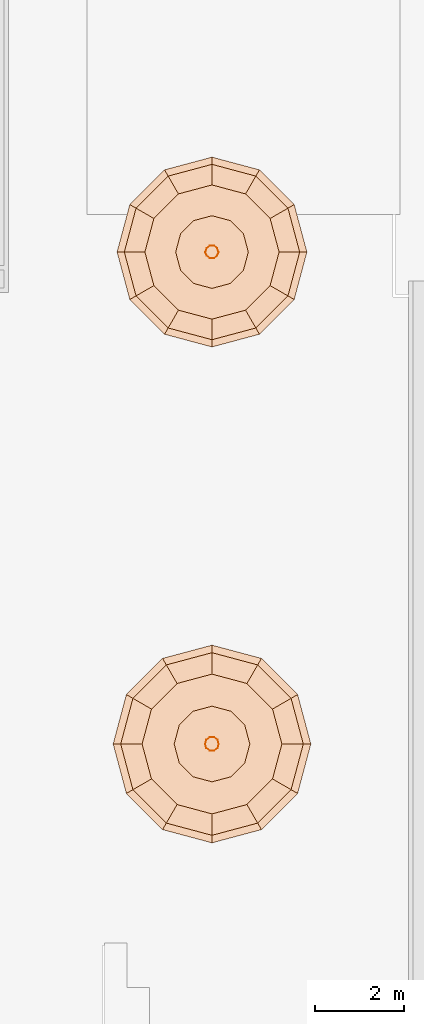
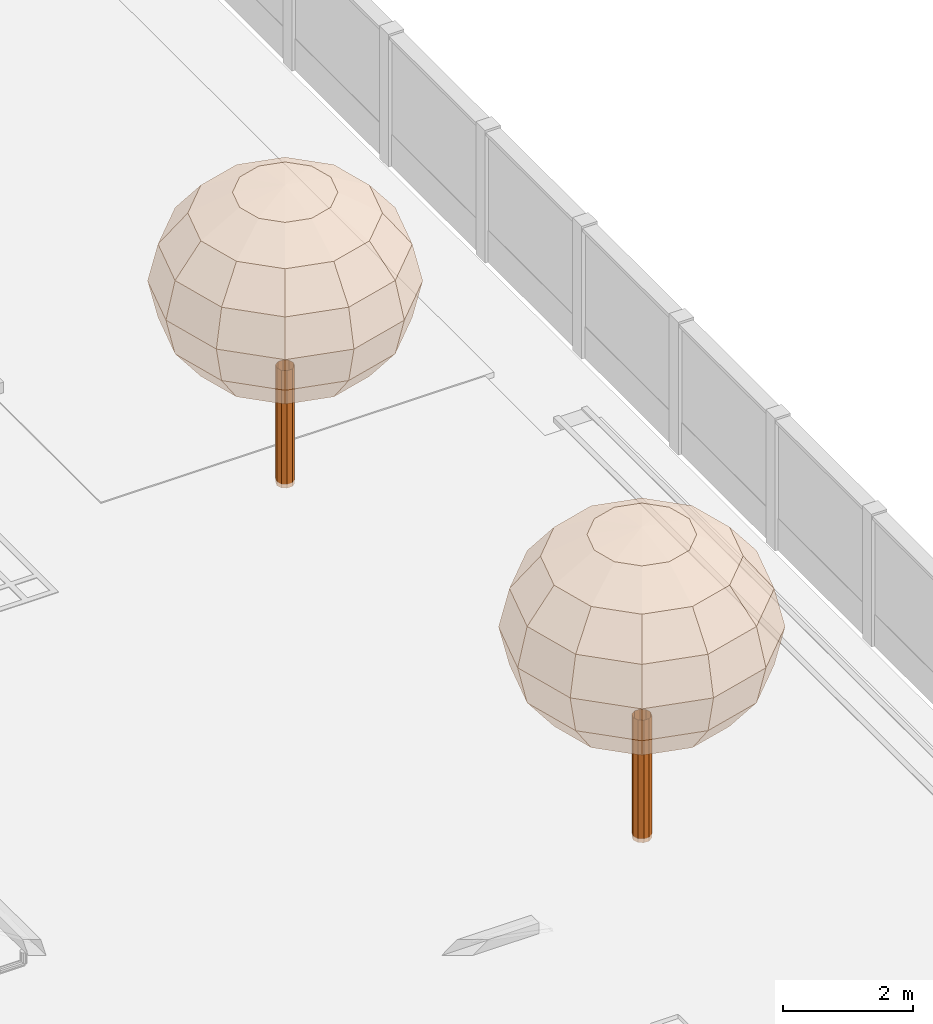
# One storey, part 164 of 177: 4 geographic elements.
"""IFC4 building model written with IfcOpenShell, lengths in metres."""

from ifc_helpers import new_model, si_unit, origin, origin_with_axes, place, context, subcontext, project, spatial, triangles, element, save


model = new_model("IFC4")

# Units and contexts
model_context = context("Model", 3, precision=1e-05, world=origin_with_axes())
body_context = subcontext(model_context, "Body", "Model", "MODEL_VIEW")
ifc_project = project(units=[si_unit("LENGTHUNIT", "METRE"), si_unit("AREAUNIT", "SQUARE_METRE"), si_unit("VOLUMEUNIT", "CUBIC_METRE"), si_unit("PLANEANGLEUNIT", "RADIAN")], contexts=[model_context])

# Site, building, storey
site_placement = place(None, origin_with_axes())
site = spatial("IfcSite", under=ifc_project, at=site_placement, Name="Predio Los Mangos - Morales, San Martín", CompositionType="ELEMENT")
building_placement = place(site_placement, origin())
building = spatial("IfcBuilding", under=site, at=building_placement, Name="Hogar de Refugio Temporal", CompositionType="ELEMENT")
storey_placement = place(building_placement, origin())
storey = spatial("IfcBuildingStorey", under=building, at=storey_placement, Name="NIVEL 1 (NPT +0.00)", CompositionType="ELEMENT", Elevation=0.0)

# Geographic elements
geographic_element_1_placement = place(storey_placement, origin())
element("IfcGeographicElement", 1, at=geographic_element_1_placement, inside=storey, Name="arbol_tronco", ObjectType="Árbol", PredefinedType="NOTDEFINED", context=body_context, shape_type="Tessellation", body=[
    triangles([(66.1538, 45.0, 0.0), (66.1244, 45.0904, 0.0), (66.0475, 45.1462, 0.0), (65.9525, 45.1462, 0.0), (65.8756, 45.0904, 0.0), (65.8462, 45.0, 0.0), (65.8756, 44.9096, 0.0), (65.9525, 44.8538, 0.0), (66.0475, 44.8538, 0.0), (66.1244, 44.9096, 0.0), (66.1538, 45.0, 2.3063), (66.1244, 45.0904, 2.3063), (66.0475, 45.1462, 2.3063), (65.9525, 45.1462, 2.3063), (65.8756, 45.0904, 2.3063), (65.8462, 45.0, 2.3063), (65.8756, 44.9096, 2.3063), (65.9525, 44.8538, 2.3063), (66.0475, 44.8538, 2.3063), (66.1244, 44.9096, 2.3063)], [[1, 2, 12], [2, 3, 13], [3, 4, 14], [4, 5, 15], [5, 6, 16], [6, 7, 17], [7, 8, 18], [8, 9, 19], [9, 10, 20], [10, 1, 11], [1, 12, 11], [2, 13, 12], [3, 14, 13], [4, 15, 14], [5, 16, 15], [6, 17, 16], [7, 18, 17], [8, 19, 18], [9, 20, 19], [10, 11, 20]]),
])
geographic_element_2_placement = place(storey_placement, origin())
element("IfcGeographicElement", 2, at=geographic_element_2_placement, inside=storey, Name="arbol_copa", ObjectType="Árbol", PredefinedType="NOTDEFINED", context=body_context, shape_type="Tessellation", body=[
    triangles([(66.0, 45.0, 5.8426), (66.0, 45.0, 5.8426), (66.0, 45.0, 5.8426), (66.0, 45.0, 5.8426), (66.0, 45.0, 5.8426), (66.0, 45.0, 5.8426), (66.0, 45.0, 5.8426), (66.0, 45.0, 5.8426), (66.0, 45.0, 5.8426), (66.0, 45.0, 5.8426), (66.0, 45.0, 5.8426), (66.0, 45.0, 5.8426), (66.8458, 45.0, 5.6996), (66.7325, 45.4229, 5.6996), (66.4229, 45.7325, 5.6996), (66.0, 45.8458, 5.6996), (65.5771, 45.7325, 5.6996), (65.2675, 45.4229, 5.6996), (65.1542, 45.0, 5.6996), (65.2675, 44.5771, 5.6996), (65.5771, 44.2675, 5.6996), (66.0, 44.1542, 5.6996), (66.4229, 44.2675, 5.6996), (66.7325, 44.5771, 5.6996), (67.5628, 45.0, 5.2923), (67.3535, 45.7814, 5.2923), (66.7814, 46.3535, 5.2923), (66.0, 46.5628, 5.2923), (65.2186, 46.3535, 5.2923), (64.6465, 45.7814, 5.2923), (64.4372, 45.0, 5.2923), (64.6465, 44.2186, 5.2923), (65.2186, 43.6465, 5.2923), (66.0, 43.4372, 5.2923), (66.7814, 43.6465, 5.2923), (67.3535, 44.2186, 5.2923), (68.0419, 45.0, 4.6829), (67.7684, 46.021, 4.6829), (67.021, 46.7684, 4.6829), (66.0, 47.0419, 4.6829), (64.979, 46.7684, 4.6829), (64.2316, 46.021, 4.6829), (63.9581, 45.0, 4.6829), (64.2316, 43.979, 4.6829), (64.979, 43.2316, 4.6829), (66.0, 42.9581, 4.6829), (67.021, 43.2316, 4.6829), (67.7684, 43.979, 4.6829), (68.2102, 45.0, 3.9639), (67.9141, 46.1051, 3.9639), (67.1051, 46.9141, 3.9639), (66.0, 47.2102, 3.9639), (64.8949, 46.9141, 3.9639), (64.0859, 46.1051, 3.9639), (63.7898, 45.0, 3.9639), (64.0859, 43.8949, 3.9639), (64.8949, 43.0859, 3.9639), (66.0, 42.7898, 3.9639), (67.1051, 43.0859, 3.9639), (67.9141, 43.8949, 3.9639), (68.0419, 45.0, 3.245), (67.7684, 46.021, 3.245), (67.021, 46.7684, 3.245), (66.0, 47.0419, 3.245), (64.979, 46.7684, 3.245), (64.2316, 46.021, 3.245), (63.9581, 45.0, 3.245), (64.2316, 43.979, 3.245), (64.979, 43.2316, 3.245), (66.0, 42.9581, 3.245), (67.021, 43.2316, 3.245), (67.7684, 43.979, 3.245), (67.5628, 45.0, 2.6355), (67.3535, 45.7814, 2.6355), (66.7814, 46.3535, 2.6355), (66.0, 46.5628, 2.6355), (65.2186, 46.3535, 2.6355), (64.6465, 45.7814, 2.6355), (64.4372, 45.0, 2.6355), (64.6465, 44.2186, 2.6355), (65.2186, 43.6465, 2.6355), (66.0, 43.4372, 2.6355), (66.7814, 43.6465, 2.6355), (67.3535, 44.2186, 2.6355), (66.8458, 45.0, 2.2283), (66.7325, 45.4229, 2.2283), (66.4229, 45.7325, 2.2283), (66.0, 45.8458, 2.2283), (65.5771, 45.7325, 2.2283), (65.2675, 45.4229, 2.2283), (65.1542, 45.0, 2.2283), (65.2675, 44.5771, 2.2283), (65.5771, 44.2675, 2.2283), (66.0, 44.1542, 2.2283), (66.4229, 44.2675, 2.2283), (66.7325, 44.5771, 2.2283), (66.0, 45.0, 2.0853), (66.0, 45.0, 2.0853), (66.0, 45.0, 2.0853), (66.0, 45.0, 2.0853), (66.0, 45.0, 2.0853), (66.0, 45.0, 2.0853), (66.0, 45.0, 2.0853), (66.0, 45.0, 2.0853), (66.0, 45.0, 2.0853), (66.0, 45.0, 2.0853), (66.0, 45.0, 2.0853), (66.0, 45.0, 2.0853)], [[1, 2, 14], [1, 14, 13], [2, 3, 15], [2, 15, 14], [3, 4, 16], [3, 16, 15], [4, 5, 17], [4, 17, 16], [5, 6, 18], [5, 18, 17], [6, 7, 19], [6, 19, 18], [7, 8, 20], [7, 20, 19], [8, 9, 21], [8, 21, 20], [9, 10, 22], [9, 22, 21], [10, 11, 23], [10, 23, 22], [11, 12, 24], [11, 24, 23], [12, 1, 13], [12, 13, 24], [13, 14, 26], [13, 26, 25], [14, 15, 27], [14, 27, 26], [15, 16, 28], [15, 28, 27], [16, 17, 29], [16, 29, 28], [17, 18, 30], [17, 30, 29], [18, 19, 31], [18, 31, 30], [19, 20, 32], [19, 32, 31], [20, 21, 33], [20, 33, 32], [21, 22, 34], [21, 34, 33], [22, 23, 35], [22, 35, 34], [23, 24, 36], [23, 36, 35], [24, 13, 25], [24, 25, 36], [25, 26, 38], [25, 38, 37], [26, 27, 39], [26, 39, 38], [27, 28, 40], [27, 40, 39], [28, 29, 41], [28, 41, 40], [29, 30, 42], [29, 42, 41], [30, 31, 43], [30, 43, 42], [31, 32, 44], [31, 44, 43], [32, 33, 45], [32, 45, 44], [33, 34, 46], [33, 46, 45], [34, 35, 47], [34, 47, 46], [35, 36, 48], [35, 48, 47], [36, 25, 37], [36, 37, 48], [37, 38, 50], [37, 50, 49], [38, 39, 51], [38, 51, 50], [39, 40, 52], [39, 52, 51], [40, 41, 53], [40, 53, 52], [41, 42, 54], [41, 54, 53], [42, 43, 55], [42, 55, 54], [43, 44, 56], [43, 56, 55], [44, 45, 57], [44, 57, 56], [45, 46, 58], [45, 58, 57], [46, 47, 59], [46, 59, 58], [47, 48, 60], [47, 60, 59], [48, 37, 49], [48, 49, 60], [49, 50, 62], [49, 62, 61], [50, 51, 63], [50, 63, 62], [51, 52, 64], [51, 64, 63], [52, 53, 65], [52, 65, 64], [53, 54, 66], [53, 66, 65], [54, 55, 67], [54, 67, 66], [55, 56, 68], [55, 68, 67], [56, 57, 69], [56, 69, 68], [57, 58, 70], [57, 70, 69], [58, 59, 71], [58, 71, 70], [59, 60, 72], [59, 72, 71], [60, 49, 61], [60, 61, 72], [61, 62, 74], [61, 74, 73], [62, 63, 75], [62, 75, 74], [63, 64, 76], [63, 76, 75], [64, 65, 77], [64, 77, 76], [65, 66, 78], [65, 78, 77], [66, 67, 79], [66, 79, 78], [67, 68, 80], [67, 80, 79], [68, 69, 81], [68, 81, 80], [69, 70, 82], [69, 82, 81], [70, 71, 83], [70, 83, 82], [71, 72, 84], [71, 84, 83], [72, 61, 73], [72, 73, 84], [73, 74, 86], [73, 86, 85], [74, 75, 87], [74, 87, 86], [75, 76, 88], [75, 88, 87], [76, 77, 89], [76, 89, 88], [77, 78, 90], [77, 90, 89], [78, 79, 91], [78, 91, 90], [79, 80, 92], [79, 92, 91], [80, 81, 93], [80, 93, 92], [81, 82, 94], [81, 94, 93], [82, 83, 95], [82, 95, 94], [83, 84, 96], [83, 96, 95], [84, 73, 85], [84, 85, 96], [85, 86, 98], [85, 98, 97], [86, 87, 99], [86, 99, 98], [87, 88, 100], [87, 100, 99], [88, 89, 101], [88, 101, 100], [89, 90, 102], [89, 102, 101], [90, 91, 103], [90, 103, 102], [91, 92, 104], [91, 104, 103], [92, 93, 105], [92, 105, 104], [93, 94, 106], [93, 106, 105], [94, 95, 107], [94, 107, 106], [95, 96, 108], [95, 108, 107], [96, 85, 97], [96, 97, 108]]),
])
geographic_element_3_placement = place(storey_placement, origin())
element("IfcGeographicElement", 3, at=geographic_element_3_placement, inside=storey, Name="arbol_tronco", ObjectType="Árbol", PredefinedType="NOTDEFINED", context=body_context, shape_type="Tessellation", body=[
    triangles([(66.1476, 56.0, 0.0), (66.1194, 56.0868, 0.0), (66.0456, 56.1404, 0.0), (65.9544, 56.1404, 0.0), (65.8806, 56.0868, 0.0), (65.8524, 56.0, 0.0), (65.8806, 55.9132, 0.0), (65.9544, 55.8596, 0.0), (66.0456, 55.8596, 0.0), (66.1194, 55.9132, 0.0), (66.1476, 56.0, 2.2143), (66.1194, 56.0868, 2.2143), (66.0456, 56.1404, 2.2143), (65.9544, 56.1404, 2.2143), (65.8806, 56.0868, 2.2143), (65.8524, 56.0, 2.2143), (65.8806, 55.9132, 2.2143), (65.9544, 55.8596, 2.2143), (66.0456, 55.8596, 2.2143), (66.1194, 55.9132, 2.2143)], [[1, 2, 12], [2, 3, 13], [3, 4, 14], [4, 5, 15], [5, 6, 16], [6, 7, 17], [7, 8, 18], [8, 9, 19], [9, 10, 20], [10, 1, 11], [1, 12, 11], [2, 13, 12], [3, 14, 13], [4, 15, 14], [5, 16, 15], [6, 17, 16], [7, 18, 17], [8, 19, 18], [9, 20, 19], [10, 11, 20]]),
])
geographic_element_4_placement = place(storey_placement, origin())
element("IfcGeographicElement", 4, at=geographic_element_4_placement, inside=storey, Name="arbol_copa", ObjectType="Árbol", PredefinedType="NOTDEFINED", context=body_context, shape_type="Tessellation", body=[
    triangles([(66.0, 56.0, 5.6096), (66.0, 56.0, 5.6096), (66.0, 56.0, 5.6096), (66.0, 56.0, 5.6096), (66.0, 56.0, 5.6096), (66.0, 56.0, 5.6096), (66.0, 56.0, 5.6096), (66.0, 56.0, 5.6096), (66.0, 56.0, 5.6096), (66.0, 56.0, 5.6096), (66.0, 56.0, 5.6096), (66.0, 56.0, 5.6096), (66.8121, 56.0, 5.4723), (66.7033, 56.406, 5.4723), (66.406, 56.7033, 5.4723), (66.0, 56.8121, 5.4723), (65.594, 56.7033, 5.4723), (65.2967, 56.406, 5.4723), (65.1879, 56.0, 5.4723), (65.2967, 55.594, 5.4723), (65.594, 55.2967, 5.4723), (66.0, 55.1879, 5.4723), (66.406, 55.2967, 5.4723), (66.7033, 55.594, 5.4723), (67.5005, 56.0, 5.0813), (67.2995, 56.7503, 5.0813), (66.7503, 57.2995, 5.0813), (66.0, 57.5005, 5.0813), (65.2497, 57.2995, 5.0813), (64.7005, 56.7503, 5.0813), (64.4995, 56.0, 5.0813), (64.7005, 55.2497, 5.0813), (65.2497, 54.7005, 5.0813), (66.0, 54.4995, 5.0813), (66.7503, 54.7005, 5.0813), (67.2995, 55.2497, 5.0813), (67.9605, 56.0, 4.4961), (67.6979, 56.9803, 4.4961), (66.9803, 57.6979, 4.4961), (66.0, 57.9605, 4.4961), (65.0197, 57.6979, 4.4961), (64.3021, 56.9803, 4.4961), (64.0395, 56.0, 4.4961), (64.3021, 55.0197, 4.4961), (65.0197, 54.3021, 4.4961), (66.0, 54.0395, 4.4961), (66.9803, 54.3021, 4.4961), (67.6979, 55.0197, 4.4961), (68.122, 56.0, 3.8058), (67.8377, 57.061, 3.8058), (67.061, 57.8377, 3.8058), (66.0, 58.122, 3.8058), (64.939, 57.8377, 3.8058), (64.1623, 57.061, 3.8058), (63.878, 56.0, 3.8058), (64.1623, 54.939, 3.8058), (64.939, 54.1623, 3.8058), (66.0, 53.878, 3.8058), (67.061, 54.1623, 3.8058), (67.8377, 54.939, 3.8058), (67.9605, 56.0, 3.1156), (67.6979, 56.9803, 3.1156), (66.9803, 57.6979, 3.1156), (66.0, 57.9605, 3.1156), (65.0197, 57.6979, 3.1156), (64.3021, 56.9803, 3.1156), (64.0395, 56.0, 3.1156), (64.3021, 55.0197, 3.1156), (65.0197, 54.3021, 3.1156), (66.0, 54.0395, 3.1156), (66.9803, 54.3021, 3.1156), (67.6979, 55.0197, 3.1156), (67.5005, 56.0, 2.5304), (67.2995, 56.7503, 2.5304), (66.7503, 57.2995, 2.5304), (66.0, 57.5005, 2.5304), (65.2497, 57.2995, 2.5304), (64.7005, 56.7503, 2.5304), (64.4995, 56.0, 2.5304), (64.7005, 55.2497, 2.5304), (65.2497, 54.7005, 2.5304), (66.0, 54.4995, 2.5304), (66.7503, 54.7005, 2.5304), (67.2995, 55.2497, 2.5304), (66.8121, 56.0, 2.1394), (66.7033, 56.406, 2.1394), (66.406, 56.7033, 2.1394), (66.0, 56.8121, 2.1394), (65.594, 56.7033, 2.1394), (65.2967, 56.406, 2.1394), (65.1879, 56.0, 2.1394), (65.2967, 55.594, 2.1394), (65.594, 55.2967, 2.1394), (66.0, 55.1879, 2.1394), (66.406, 55.2967, 2.1394), (66.7033, 55.594, 2.1394), (66.0, 56.0, 2.0021), (66.0, 56.0, 2.0021), (66.0, 56.0, 2.0021), (66.0, 56.0, 2.0021), (66.0, 56.0, 2.0021), (66.0, 56.0, 2.0021), (66.0, 56.0, 2.0021), (66.0, 56.0, 2.0021), (66.0, 56.0, 2.0021), (66.0, 56.0, 2.0021), (66.0, 56.0, 2.0021), (66.0, 56.0, 2.0021)], [[1, 2, 14], [1, 14, 13], [2, 3, 15], [2, 15, 14], [3, 4, 16], [3, 16, 15], [4, 5, 17], [4, 17, 16], [5, 6, 18], [5, 18, 17], [6, 7, 19], [6, 19, 18], [7, 8, 20], [7, 20, 19], [8, 9, 21], [8, 21, 20], [9, 10, 22], [9, 22, 21], [10, 11, 23], [10, 23, 22], [11, 12, 24], [11, 24, 23], [12, 1, 13], [12, 13, 24], [13, 14, 26], [13, 26, 25], [14, 15, 27], [14, 27, 26], [15, 16, 28], [15, 28, 27], [16, 17, 29], [16, 29, 28], [17, 18, 30], [17, 30, 29], [18, 19, 31], [18, 31, 30], [19, 20, 32], [19, 32, 31], [20, 21, 33], [20, 33, 32], [21, 22, 34], [21, 34, 33], [22, 23, 35], [22, 35, 34], [23, 24, 36], [23, 36, 35], [24, 13, 25], [24, 25, 36], [25, 26, 38], [25, 38, 37], [26, 27, 39], [26, 39, 38], [27, 28, 40], [27, 40, 39], [28, 29, 41], [28, 41, 40], [29, 30, 42], [29, 42, 41], [30, 31, 43], [30, 43, 42], [31, 32, 44], [31, 44, 43], [32, 33, 45], [32, 45, 44], [33, 34, 46], [33, 46, 45], [34, 35, 47], [34, 47, 46], [35, 36, 48], [35, 48, 47], [36, 25, 37], [36, 37, 48], [37, 38, 50], [37, 50, 49], [38, 39, 51], [38, 51, 50], [39, 40, 52], [39, 52, 51], [40, 41, 53], [40, 53, 52], [41, 42, 54], [41, 54, 53], [42, 43, 55], [42, 55, 54], [43, 44, 56], [43, 56, 55], [44, 45, 57], [44, 57, 56], [45, 46, 58], [45, 58, 57], [46, 47, 59], [46, 59, 58], [47, 48, 60], [47, 60, 59], [48, 37, 49], [48, 49, 60], [49, 50, 62], [49, 62, 61], [50, 51, 63], [50, 63, 62], [51, 52, 64], [51, 64, 63], [52, 53, 65], [52, 65, 64], [53, 54, 66], [53, 66, 65], [54, 55, 67], [54, 67, 66], [55, 56, 68], [55, 68, 67], [56, 57, 69], [56, 69, 68], [57, 58, 70], [57, 70, 69], [58, 59, 71], [58, 71, 70], [59, 60, 72], [59, 72, 71], [60, 49, 61], [60, 61, 72], [61, 62, 74], [61, 74, 73], [62, 63, 75], [62, 75, 74], [63, 64, 76], [63, 76, 75], [64, 65, 77], [64, 77, 76], [65, 66, 78], [65, 78, 77], [66, 67, 79], [66, 79, 78], [67, 68, 80], [67, 80, 79], [68, 69, 81], [68, 81, 80], [69, 70, 82], [69, 82, 81], [70, 71, 83], [70, 83, 82], [71, 72, 84], [71, 84, 83], [72, 61, 73], [72, 73, 84], [73, 74, 86], [73, 86, 85], [74, 75, 87], [74, 87, 86], [75, 76, 88], [75, 88, 87], [76, 77, 89], [76, 89, 88], [77, 78, 90], [77, 90, 89], [78, 79, 91], [78, 91, 90], [79, 80, 92], [79, 92, 91], [80, 81, 93], [80, 93, 92], [81, 82, 94], [81, 94, 93], [82, 83, 95], [82, 95, 94], [83, 84, 96], [83, 96, 95], [84, 73, 85], [84, 85, 96], [85, 86, 98], [85, 98, 97], [86, 87, 99], [86, 99, 98], [87, 88, 100], [87, 100, 99], [88, 89, 101], [88, 101, 100], [89, 90, 102], [89, 102, 101], [90, 91, 103], [90, 103, 102], [91, 92, 104], [91, 104, 103], [92, 93, 105], [92, 105, 104], [93, 94, 106], [93, 106, 105], [94, 95, 107], [94, 107, 106], [95, 96, 108], [95, 108, 107], [96, 85, 97], [96, 97, 108]]),
])

save(model, "model.ifc")
